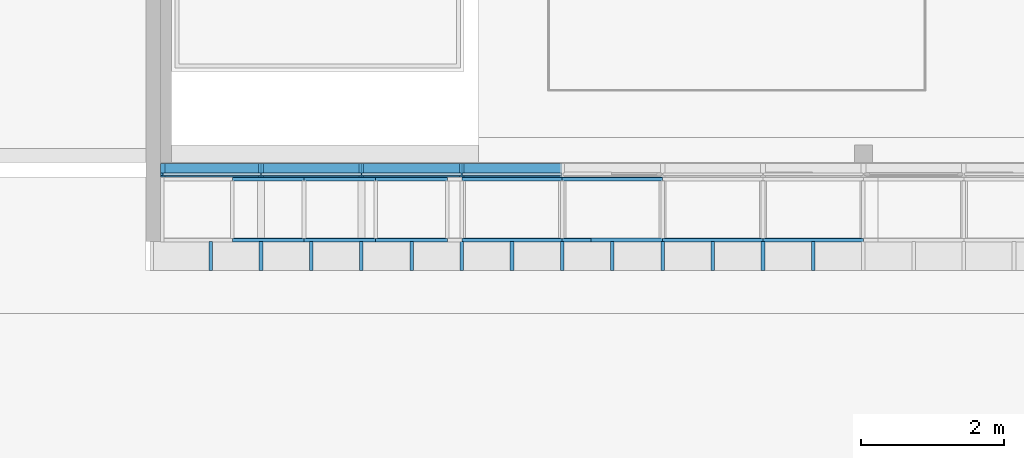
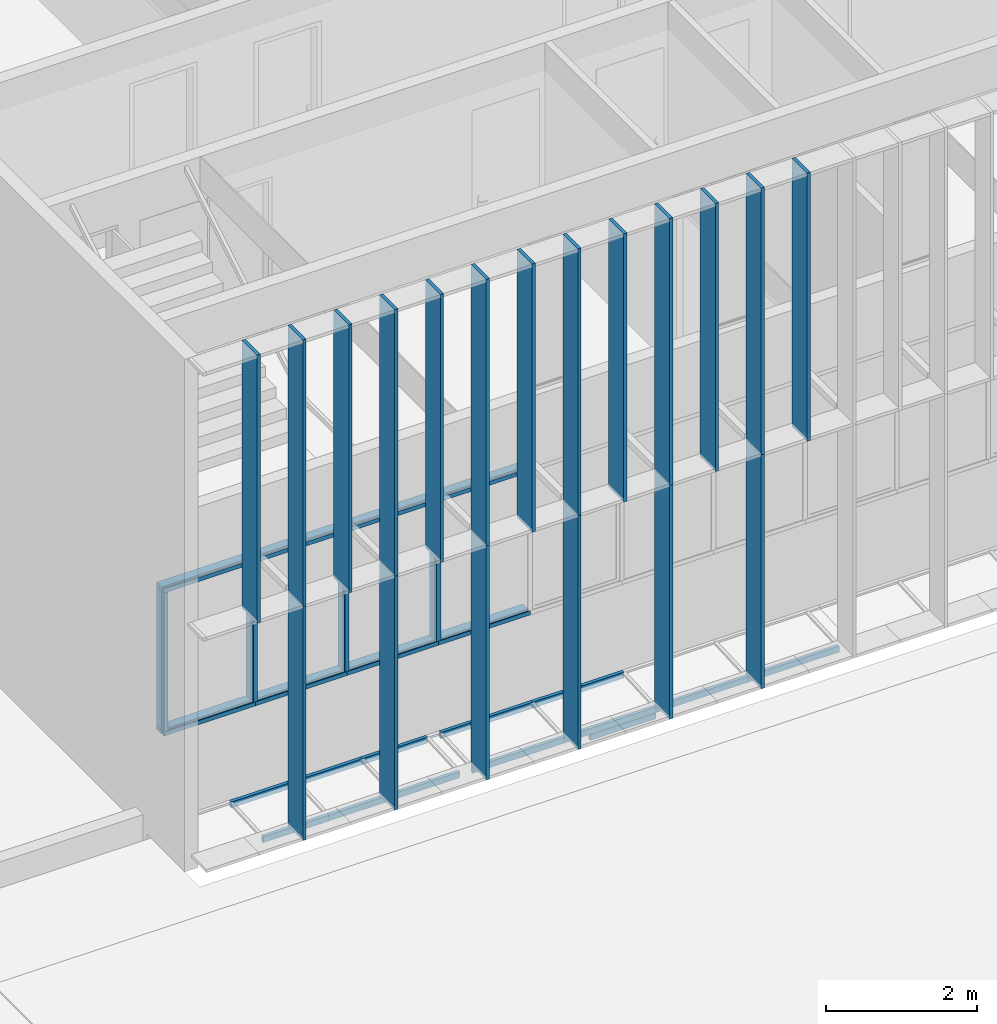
# One storey, part 4 of 106: 44 members, 3 elements without a shape of their own.
"""IFC2X3 building model written with IfcOpenShell, lengths in centimetres."""

import ifcopenshell
import ifcopenshell.guid

model = None  # the IFC model being written
_history = None  # IfcOwnerHistory: only IFC2X3 demands one
_inside = {}  # id of a spatial element -> (the spatial element, [elements in it])
_under = {}  # id of a project, library or spatial element -> (it, [spatial elements below it])
_declared = {}  # id of a project -> (the project, [libraries it declares])
_typed = {}  # id of a type object -> (the type object, [elements of that type])
_made_of = {}  # id of a material, layer set ... -> (it, [elements and type objects made of it])


def new_model(schema):
    """Start an empty IFC model of exactly this schema.

    Asked for "IFC4X3", IfcOpenShell would pick the latest addendum, in which some entities
    have other attributes; the version numbers below select the first issue.
    IFC2X3 requires an IfcOwnerHistory on every rooted entity: one is made here for all.
    """
    global model, _history
    if schema == "IFC4X3":
        model = ifcopenshell.file(schema_version=(4, 3, 0, 0))
    else:
        model = ifcopenshell.file(schema=schema)
    _inside.clear()
    _under.clear()
    _declared.clear()
    _typed.clear()
    _made_of.clear()
    _history = None
    if model.schema == "IFC2X3":
        org = make("IfcOrganization", Name="unknown")
        user = make(
            "IfcPersonAndOrganization",
            ThePerson=make("IfcPerson", FamilyName="unknown"),
            TheOrganization=org,
        )
        app = make(
            "IfcApplication",
            ApplicationDeveloper=org,
            Version="unknown",
            ApplicationFullName="unknown",
            ApplicationIdentifier="unknown",
        )
        _history = make(
            "IfcOwnerHistory",
            OwningUser=user,
            OwningApplication=app,
            ChangeAction="ADDED",
            CreationDate=0,
        )
    return model


def make(cls, **values):
    """One entity of the class cls with the attributes given. An attribute that is None is left unset."""
    return model.create_entity(
        cls, **{name: value for name, value in values.items() if value is not None}
    )


def entity(cls, *values):
    """Any entity or typed value of the class cls, its attributes in the order of the schema. None: left unset."""
    e = model.create_entity(cls)
    for i, value in enumerate(values):
        if value is not None:
            e[i] = value
    return e


def rooted(cls, **values):
    """An entity with a GlobalId (a new one), such as an element, a storey or a relation."""
    return make(cls, GlobalId=ifcopenshell.guid.new(), OwnerHistory=_history, **values)


def si_unit(unit_type, name, prefix=None):
    """IfcSIUnit, for example si_unit("LENGTHUNIT", "METRE", prefix="MILLI")."""
    return make("IfcSIUnit", UnitType=unit_type, Prefix=prefix, Name=name)


def converted_unit(unit_type, name, factor, base, dimensions=None, offset=None):
    """IfcConversionBasedUnit, such as the inch: factor (a typed value) times the base unit."""
    return make(
        "IfcConversionBasedUnit"
        if offset is None
        else "IfcConversionBasedUnitWithOffset",
        ConversionOffset=offset,
        Dimensions=None
        if dimensions is None
        else entity("IfcDimensionalExponents", *dimensions),
        UnitType=unit_type,
        Name=name,
        ConversionFactor=make(
            "IfcMeasureWithUnit", ValueComponent=factor, UnitComponent=base
        ),
    )


def derived_unit(unit_type, elements):
    """IfcDerivedUnit: a product of units, each with its exponent."""
    return make(
        "IfcDerivedUnit",
        Elements=[
            make("IfcDerivedUnitElement", Unit=unit, Exponent=power)
            for unit, power in elements
        ],
        UnitType=unit_type,
    )


def assignment(units):
    """IfcUnitAssignment: the units of a project."""
    return None if units is None else make("IfcUnitAssignment", Units=units)


def point(xyz):
    """IfcCartesianPoint."""
    return None if xyz is None else make("IfcCartesianPoint", Coordinates=xyz)


def direction(xyz):
    """IfcDirection."""
    return None if xyz is None else make("IfcDirection", DirectionRatios=xyz)


def frame(location, z_axis=None, x_axis=None):
    """IfcAxis2Placement3D, a coordinate frame: its origin and axes. An axis left out is left unset."""
    return make(
        "IfcAxis2Placement3D",
        Location=point(location),
        Axis=direction(z_axis),
        RefDirection=direction(x_axis),
    )


def frame_2d(location, x_axis=None):
    """IfcAxis2Placement2D, a coordinate frame in the plane: its origin and x axis."""
    return make(
        "IfcAxis2Placement2D", Location=point(location), RefDirection=direction(x_axis)
    )


def origin():
    """The frame at (0, 0, 0) with its axes left unset."""
    return frame((0.0, 0.0, 0.0))


def origin_2d_with_axis():
    """The frame at (0, 0) in the plane with the x axis (1, 0) written out."""
    return frame_2d((0.0, 0.0), x_axis=(1.0, 0.0))


def place(relative_to, where):
    """IfcLocalPlacement: puts the frame where relative to a parent placement (None: the world)."""
    return make(
        "IfcLocalPlacement", PlacementRelTo=relative_to, RelativePlacement=where
    )


def context(
    kind, dimensions, precision=None, world=None, true_north=None, identifier=None
):
    """IfcGeometricRepresentationContext, for example the 3D "Model" context."""
    return make(
        "IfcGeometricRepresentationContext",
        ContextIdentifier=identifier,
        ContextType=kind,
        CoordinateSpaceDimension=dimensions,
        Precision=precision,
        WorldCoordinateSystem=world,
        TrueNorth=true_north,
    )


def subcontext(parent, identifier, kind, view, scale=None):
    """IfcGeometricRepresentationSubContext, for example "Body" below "Model"."""
    return make(
        "IfcGeometricRepresentationSubContext",
        ContextIdentifier=identifier,
        ContextType=kind,
        ParentContext=parent,
        TargetScale=scale,
        TargetView=view,
    )


def project(units=None, contexts=None):
    """IfcProject with its units and contexts."""
    return rooted(
        "IfcProject",
        Name="project",
        RepresentationContexts=contexts,
        UnitsInContext=assignment(units),
    )


def spatial(cls, under=None, at=None, **own):
    """A site, building, storey or space (cls), placed at a placement, below another one or the project."""
    s = rooted(cls, ObjectPlacement=at, **own)
    if under is not None:
        _under.setdefault(under.id(), (under, []))[1].append(s)
    return s


def polyline(points):
    """IfcPolyline through the points."""
    return make("IfcPolyline", Points=[point(p) for p in points])


def profile(cls, at=None, kind="AREA", **sizes):
    """A parametric profile (cls). Its sizes go by their IFC names, for example OverallWidth=200.0."""
    return make(cls, ProfileType=kind, Position=at, **sizes)


def rectangle(**sizes):
    """IfcRectangleProfileDef."""
    return profile("IfcRectangleProfileDef", **sizes)


def outline(outer, holes=None, kind="AREA"):
    """IfcArbitraryClosedProfileDef: a profile drawn as a closed curve; with holes, ...WithVoids."""
    if holes is None:
        return make("IfcArbitraryClosedProfileDef", ProfileType=kind, OuterCurve=outer)
    return make(
        "IfcArbitraryProfileDefWithVoids",
        ProfileType=kind,
        OuterCurve=outer,
        InnerCurves=holes,
    )


def extrude(swept, where, along, depth):
    """IfcExtrudedAreaSolid: the profile swept, set in the frame where, extruded along a direction by depth."""
    return make(
        "IfcExtrudedAreaSolid",
        SweptArea=swept,
        Position=where,
        ExtrudedDirection=direction(along),
        Depth=depth,
    )


def shape(context_of_items, identifier, shape_type, items):
    """IfcShapeRepresentation: the items that make up one representation, for example the "Body"."""
    return make(
        "IfcShapeRepresentation",
        ContextOfItems=context_of_items,
        RepresentationIdentifier=identifier,
        RepresentationType=shape_type,
        Items=items,
    )


def source(mapping_origin, context_of_items, identifier, shape_type, items):
    """IfcRepresentationMap: a shape defined once, which mapped items show again and again."""
    return make(
        "IfcRepresentationMap",
        MappingOrigin=mapping_origin,
        MappedRepresentation=shape(context_of_items, identifier, shape_type, items),
    )


def transform(
    local_origin,
    x_axis=None,
    y_axis=None,
    z_axis=None,
    scale=None,
    scale2=None,
    scale3=None,
    uniform=True,
):
    """IfcCartesianTransformationOperator3D, or its non-uniform kind. x_axis, y_axis, z_axis: its Axis1, 2, 3."""
    if uniform:
        return make(
            "IfcCartesianTransformationOperator3D",
            Axis1=direction(x_axis),
            Axis2=direction(y_axis),
            LocalOrigin=point(local_origin),
            Scale=scale,
            Axis3=direction(z_axis),
        )
    return make(
        "IfcCartesianTransformationOperator3DnonUniform",
        Axis1=direction(x_axis),
        Axis2=direction(y_axis),
        LocalOrigin=point(local_origin),
        Scale=scale,
        Axis3=direction(z_axis),
        Scale2=scale2,
        Scale3=scale3,
    )


def mapped(mapping_source, mapping_target):
    """IfcMappedItem: shows the shape of a source again, moved by a transform."""
    return make(
        "IfcMappedItem", MappingSource=mapping_source, MappingTarget=mapping_target
    )


def material(Name=None, Category=None):
    """IfcMaterial."""
    return make("IfcMaterial", Name=Name, Category=Category)


def made_of(thing, what):
    """Note that an element or type object is made of a material, layer set ...; save() writes the relation."""
    if what is not None:
        _made_of.setdefault(what.id(), (what, []))[1].append(thing)
    return thing


def type_object(cls, material=None, **own):
    """A type object (cls), such as IfcWallType, which elements share."""
    return made_of(rooted(cls, **own), material)


def type_shapes(of_type, sources):
    """Give a type object the sources (RepresentationMaps) that its elements show as mapped items."""
    of_type.RepresentationMaps = sources


def element(
    cls,
    number,
    at=None,
    inside=None,
    cuts=None,
    type_object=None,
    material=None,
    context=None,
    identifier="Body",
    shape_type=None,
    held_by="IfcProductDefinitionShape",
    body=None,
    shapes=None,
    **own,
):
    """One element of the class cls, such as IfcWall. Its Tag is "e" and its number.

    at: its placement. inside: the storey or other place that contains it. cuts: it is an
    opening in that element (IfcRelVoidsElement). A single representation is given by context,
    identifier, shape_type and body (its items); several are given by shapes. held_by: the class
    of the entity that holds the representations. save() writes the other relations.
    """
    e = rooted(cls, Tag="e%d" % number, ObjectPlacement=at, **own)
    if body is not None:
        shapes = [shape(context, identifier, shape_type, body)]
    if shapes is not None:
        e.Representation = make(held_by, Representations=shapes)
    if inside is not None:
        _inside.setdefault(inside.id(), (inside, []))[1].append(e)
    if cuts is not None:
        rooted(
            "IfcRelVoidsElement", RelatingBuildingElement=cuts, RelatedOpeningElement=e
        )
    if type_object is not None:
        _typed.setdefault(type_object.id(), (type_object, []))[1].append(e)
    return made_of(e, material)


def aggregate(whole, parts):
    """IfcRelAggregates: a whole, such as a stair, and the parts it consists of."""
    return rooted("IfcRelAggregates", RelatingObject=whole, RelatedObjects=parts)


def save(model, path):
    """Write the relations noted so far, then the file.

    IfcRelAggregates (storeys below a building ...), IfcRelContainedInSpatialStructure (elements
    in a storey), IfcRelDefinesByType, IfcRelAssociatesMaterial and IfcRelDeclares: one each for
    every whole, place, type object, material and project.
    """
    for whole, parts in _under.values():
        aggregate(whole, parts)
    for where, things in _inside.values():
        rooted(
            "IfcRelContainedInSpatialStructure",
            RelatedElements=things,
            RelatingStructure=where,
        )
    for kind, things in _typed.values():
        rooted("IfcRelDefinesByType", RelatedObjects=things, RelatingType=kind)
    for what, things in _made_of.values():
        rooted("IfcRelAssociatesMaterial", RelatedObjects=things, RelatingMaterial=what)
    for by, libraries in _declared.values():
        rooted("IfcRelDeclares", RelatingContext=by, RelatedDefinitions=libraries)
    model.write(path)


model = new_model("IFC2X3")

# Units and contexts
model_context = context("Model", 3, precision=0.001, world=origin(), true_north=direction((6.12303176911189e-17, 1.0)))
body_context = subcontext(model_context, "Body", "Model", "MODEL_VIEW")
ifc_project = project(units=[si_unit("LENGTHUNIT", "METRE", prefix="CENTI"), si_unit("AREAUNIT", "SQUARE_METRE"), si_unit("VOLUMEUNIT", "CUBIC_METRE"), converted_unit("PLANEANGLEUNIT", "DEGREE", entity("IfcRatioMeasure", 0.0174532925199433), si_unit("PLANEANGLEUNIT", "RADIAN"), dimensions=[0, 0, 0, 0, 0, 0, 0]), si_unit("MASSUNIT", "GRAM", prefix="KILO"), derived_unit("MASSDENSITYUNIT", [(si_unit("MASSUNIT", "GRAM", prefix="KILO"), 1), (si_unit("LENGTHUNIT", "METRE"), -3)]), si_unit("TIMEUNIT", "SECOND"), si_unit("FREQUENCYUNIT", "HERTZ"), si_unit("THERMODYNAMICTEMPERATUREUNIT", "DEGREE_CELSIUS"), derived_unit("THERMALTRANSMITTANCEUNIT", [(si_unit("MASSUNIT", "GRAM", prefix="KILO"), 1), (si_unit("THERMODYNAMICTEMPERATUREUNIT", "KELVIN"), -1), (si_unit("TIMEUNIT", "SECOND"), -3)]), derived_unit("VOLUMETRICFLOWRATEUNIT", [(si_unit("LENGTHUNIT", "METRE"), 3), (si_unit("TIMEUNIT", "SECOND"), -1)]), si_unit("ELECTRICCURRENTUNIT", "AMPERE"), si_unit("ELECTRICVOLTAGEUNIT", "VOLT"), si_unit("POWERUNIT", "WATT"), si_unit("FORCEUNIT", "NEWTON", prefix="KILO"), si_unit("ILLUMINANCEUNIT", "LUX"), si_unit("LUMINOUSFLUXUNIT", "LUMEN"), si_unit("LUMINOUSINTENSITYUNIT", "CANDELA"), derived_unit("USERDEFINED", [(si_unit("MASSUNIT", "GRAM", prefix="KILO"), -1), (si_unit("LENGTHUNIT", "METRE"), -2), (si_unit("TIMEUNIT", "SECOND"), 3), (si_unit("LUMINOUSFLUXUNIT", "LUMEN"), 1)]), derived_unit("LINEARVELOCITYUNIT", [(si_unit("LENGTHUNIT", "METRE"), 1), (si_unit("TIMEUNIT", "SECOND"), -1)]), si_unit("PRESSUREUNIT", "PASCAL"), derived_unit("USERDEFINED", [(si_unit("LENGTHUNIT", "METRE"), -2), (si_unit("MASSUNIT", "GRAM", prefix="KILO"), 1), (si_unit("TIMEUNIT", "SECOND"), -2)])], contexts=[model_context])

# Site, building, storey
site_placement = place(None, frame((-2781.94577612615, 7442.24238424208, 0.0)))
site = spatial("IfcSite", under=ifc_project, at=site_placement, Name="Default", CompositionType="ELEMENT")
building_placement = place(site_placement, origin())
building = spatial("IfcBuilding", under=site, at=building_placement, CompositionType="ELEMENT")
storey_placement = place(building_placement, frame((0.0, 0.0, 422.0)))
storey = spatial("IfcBuildingStorey", under=building, at=storey_placement, Name="Toiture - Cuisine", CompositionType="ELEMENT", Elevation=421.999999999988)

# Roof, members
curtain_wall_type_1 = type_object("IfcCurtainWallType", Name="Vitres inclinées:Toit en verre 1 m x 2 m", PredefinedType="NOTDEFINED")
roof_placement = place(building_placement, origin())
roof = element("IfcRoof", 1, at=roof_placement, inside=storey, type_object=curtain_wall_type_1, Name="Vitres inclinées:Toit en verre 1 m x 2 m", ObjectType="Vitres inclinées:Toit en verre 1 m x 2 m", ShapeType="NOTDEFINED")
ifc_material_1 = material(Name="Plastique, blanc opaque")
member_type_1 = type_object("IfcMemberType", Name="100 x 50mm", PredefinedType="MEMBER")
shared_shape_1 = source(origin(), body_context, "Body", "SweptSolid", [
    extrude(rectangle(XDim=10.0, YDim=5.0, at=origin_2d_with_axis()), frame((-2.5, 0.0, -100.0), z_axis=(0.0, 0.0, 1.0), x_axis=(0.0, -1.0, 0.0)), (0.0, 0.0, 1.0), 99.9999999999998),
])
type_shapes(member_type_1, [shared_shape_1])
member_1_placement = place(building_placement, frame((-8309.49987763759, -1950.34071342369, 362.709847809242), z_axis=(-1.0, 0.0, 0.0), x_axis=(0.0, 0.998629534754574, 0.0523359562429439)))
member_1 = element("IfcMember", 2, at=member_1_placement, type_object=member_type_1, material=ifc_material_1, Name="Meneau rectangulaire:100 x 50mm", ObjectType="Meneau rectangulaire:100 x 50mm", context=body_context, shape_type="MappedRepresentation", body=[
    mapped(shared_shape_1, transform((0.0, 0.0, 0.0), scale=1.0)),
])
member_2_placement = place(building_placement, frame((-8209.49987763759, -1950.34071342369, 362.709847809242), z_axis=(-1.0, 0.0, 0.0), x_axis=(0.0, 0.998629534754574, 0.0523359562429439)))
member_2 = element("IfcMember", 3, at=member_2_placement, type_object=member_type_1, material=ifc_material_1, Name="Meneau rectangulaire:100 x 50mm", ObjectType="Meneau rectangulaire:100 x 50mm", context=body_context, shape_type="MappedRepresentation", body=[
    mapped(shared_shape_1, transform((0.0, 0.0, 0.0), scale=1.0)),
])
member_3_placement = place(building_placement, frame((-8109.49987763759, -1950.34071342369, 362.709847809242), z_axis=(-1.0, 0.0, 0.0), x_axis=(0.0, 0.998629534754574, 0.0523359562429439)))
member_3 = element("IfcMember", 4, at=member_3_placement, type_object=member_type_1, material=ifc_material_1, Name="Meneau rectangulaire:100 x 50mm", ObjectType="Meneau rectangulaire:100 x 50mm", context=body_context, shape_type="MappedRepresentation", body=[
    mapped(shared_shape_1, transform((0.0, 0.0, 0.0), scale=1.0)),
])
member_type_2 = type_object("IfcMemberType", Name="100 x 50mm", PredefinedType="MEMBER")
shared_shape_2 = source(origin(), body_context, "Body", "SweptSolid", [
    extrude(rectangle(XDim=10.0, YDim=5.0, at=origin_2d_with_axis()), frame((-2.5, 0.0, -140.0), z_axis=(0.0, 0.0, 1.0), x_axis=(0.0, -1.0, 0.0)), (0.0, 0.0, 1.0), 140.0),
])
type_shapes(member_type_2, [shared_shape_2])
member_4_placement = place(building_placement, frame((-7989.49987763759, -1950.34071342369, 362.709847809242), z_axis=(-1.0, 0.0, 0.0), x_axis=(0.0, 0.998629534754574, 0.0523359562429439)))
member_4 = element("IfcMember", 5, at=member_4_placement, type_object=member_type_2, material=ifc_material_1, Name="Meneau rectangulaire:100 x 50mm", ObjectType="Meneau rectangulaire:100 x 50mm", context=body_context, shape_type="MappedRepresentation", body=[
    mapped(shared_shape_2, transform((0.0, 0.0, 0.0), scale=1.0)),
])
member_5_placement = place(building_placement, frame((-7849.49987763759, -1950.34071342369, 362.709847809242), z_axis=(-1.0, 0.0, 0.0), x_axis=(0.0, 0.998629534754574, 0.0523359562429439)))
member_5 = element("IfcMember", 6, at=member_5_placement, type_object=member_type_2, material=ifc_material_1, Name="Meneau rectangulaire:100 x 50mm", ObjectType="Meneau rectangulaire:100 x 50mm", context=body_context, shape_type="MappedRepresentation", body=[
    mapped(shared_shape_2, transform((0.0, 0.0, 0.0), scale=1.0)),
])
member_type_3 = type_object("IfcMemberType", Name="100 x 50mm", PredefinedType="MEMBER")
shared_shape_3 = source(origin(), body_context, "Body", "SweptSolid", [
    extrude(rectangle(XDim=10.0, YDim=5.0, at=origin_2d_with_axis()), frame((-2.5, 0.0, -140.0), z_axis=(0.0, 0.0, 1.0), x_axis=(0.0, -1.0, 0.0)), (0.0, 0.0, 1.0), 140.0),
])
type_shapes(member_type_3, [shared_shape_3])
member_6_placement = place(building_placement, frame((-7709.49987763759, -2040.34071342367, 357.99314767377), z_axis=(1.0, 0.0, 0.0), x_axis=(0.0, -0.998629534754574, -0.0523359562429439)))
member_6 = element("IfcMember", 7, at=member_6_placement, type_object=member_type_3, material=ifc_material_1, Name="Meneau rectangulaire:100 x 50mm", ObjectType="Meneau rectangulaire:100 x 50mm", context=body_context, shape_type="MappedRepresentation", body=[
    mapped(shared_shape_3, transform((0.0, 0.0, 0.0), scale=1.0)),
])
member_7_placement = place(building_placement, frame((-7849.49987763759, -2040.34071342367, 357.99314767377), z_axis=(1.0, 0.0, 0.0), x_axis=(0.0, -0.998629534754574, -0.0523359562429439)))
member_7 = element("IfcMember", 8, at=member_7_placement, type_object=member_type_3, material=ifc_material_1, Name="Meneau rectangulaire:100 x 50mm", ObjectType="Meneau rectangulaire:100 x 50mm", context=body_context, shape_type="MappedRepresentation", body=[
    mapped(shared_shape_3, transform((0.0, 0.0, 0.0), scale=1.0)),
])
member_8_placement = place(building_placement, frame((-7569.49987763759, -2040.34071342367, 357.99314767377), z_axis=(1.0, 0.0, 0.0), x_axis=(0.0, -0.998629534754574, -0.0523359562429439)))
member_8 = element("IfcMember", 9, at=member_8_placement, type_object=member_type_3, material=ifc_material_1, Name="Meneau rectangulaire:100 x 50mm", ObjectType="Meneau rectangulaire:100 x 50mm", context=body_context, shape_type="MappedRepresentation", body=[
    mapped(shared_shape_3, transform((0.0, 0.0, 0.0), scale=1.0)),
])
member_9_placement = place(building_placement, frame((-7429.49987763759, -2040.34071342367, 357.99314767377), z_axis=(1.0, 0.0, 0.0), x_axis=(0.0, -0.998629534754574, -0.0523359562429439)))
member_9 = element("IfcMember", 10, at=member_9_placement, type_object=member_type_3, material=ifc_material_1, Name="Meneau rectangulaire:100 x 50mm", ObjectType="Meneau rectangulaire:100 x 50mm", context=body_context, shape_type="MappedRepresentation", body=[
    mapped(shared_shape_3, transform((0.0, 0.0, 0.0), scale=1.0)),
])
member_type_4 = type_object("IfcMemberType", Name="100 x 50mm", PredefinedType="MEMBER")
shared_shape_4 = source(origin(), body_context, "Body", "SweptSolid", [
    extrude(rectangle(XDim=10.0, YDim=5.0, at=origin_2d_with_axis()), frame((-2.5, 0.0, -100.0), z_axis=(0.0, 0.0, 1.0), x_axis=(0.0, -1.0, 0.0)), (0.0, 0.0, 1.0), 99.9999999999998),
])
type_shapes(member_type_4, [shared_shape_4])
member_10_placement = place(building_placement, frame((-8209.49987763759, -2040.34071342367, 357.99314767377), z_axis=(1.0, 0.0, 0.0), x_axis=(0.0, -0.998629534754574, -0.0523359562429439)))
member_10 = element("IfcMember", 11, at=member_10_placement, type_object=member_type_4, material=ifc_material_1, Name="Meneau rectangulaire:100 x 50mm", ObjectType="Meneau rectangulaire:100 x 50mm", context=body_context, shape_type="MappedRepresentation", body=[
    mapped(shared_shape_4, transform((0.0, 0.0, 0.0), scale=1.0)),
])
member_11_placement = place(building_placement, frame((-8109.49987763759, -2040.34071342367, 357.99314767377), z_axis=(1.0, 0.0, 0.0), x_axis=(0.0, -0.998629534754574, -0.0523359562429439)))
member_11 = element("IfcMember", 12, at=member_11_placement, type_object=member_type_4, material=ifc_material_1, Name="Meneau rectangulaire:100 x 50mm", ObjectType="Meneau rectangulaire:100 x 50mm", context=body_context, shape_type="MappedRepresentation", body=[
    mapped(shared_shape_4, transform((0.0, 0.0, 0.0), scale=1.0)),
])
member_12_placement = place(building_placement, frame((-8009.49987763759, -2040.34071342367, 357.99314767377), z_axis=(1.0, 0.0, 0.0), x_axis=(0.0, -0.998629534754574, -0.0523359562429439)))
member_12 = element("IfcMember", 13, at=member_12_placement, type_object=member_type_4, material=ifc_material_1, Name="Meneau rectangulaire:100 x 50mm", ObjectType="Meneau rectangulaire:100 x 50mm", context=body_context, shape_type="MappedRepresentation", body=[
    mapped(shared_shape_4, transform((0.0, 0.0, 0.0), scale=1.0)),
])
member_13_placement = place(building_placement, frame((-7709.4998776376, -2040.07903364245, 348.0), z_axis=(1.0, 0.0, 0.0), x_axis=(0.0, -0.998629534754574, -0.0523359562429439)))
member_13 = element("IfcMember", 14, at=member_13_placement, type_object=member_type_4, material=ifc_material_1, Name="Meneau rectangulaire:100 x 50mm", ObjectType="Meneau rectangulaire:100 x 50mm", context=body_context, shape_type="MappedRepresentation", body=[
    mapped(shared_shape_4, transform((0.0, 0.0, 0.0), scale=1.0)),
])
aggregate(roof, [member_1, member_2, member_3, member_4, member_5, member_6, member_10, member_11, member_12, member_7, member_13, member_8, member_9])

# Curtain wall, members
curtain_wall_type_2 = type_object("IfcCurtainWallType", Name="Mur-rideau:07 - mur rideau trame 140 cm", PredefinedType="NOTDEFINED")
curtain_wall_1_placement = place(building_placement, origin())
curtain_wall_1 = element("IfcCurtainWall", 15, at=curtain_wall_1_placement, inside=storey, type_object=curtain_wall_type_2, Name="Mur-rideau:07 - mur rideau trame 140 cm", ObjectType="Mur-rideau:07 - mur rideau trame 140 cm")
ifc_material_2 = material(Name="Aluminium")
member_type_5 = type_object("IfcMemberType", Name="150 x 25mm Détails", PredefinedType="MEMBER")
shared_shape_5 = source(origin(), body_context, "Body", "SweptSolid", [
    extrude(outline(polyline([(-5.6666666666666, -3.24999999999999), (-3.66666666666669, -3.24999999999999), (-3.66666666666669, -0.868749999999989), (-0.166666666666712, -0.868749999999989), (-0.166666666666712, -3.25000000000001), (13.3333333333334, -3.25000000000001), (13.3333333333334, 3.24999999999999), (-0.16666666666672, 3.24999999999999), (-0.16666666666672, 0.868749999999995), (-3.66666666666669, 0.868749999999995), (-3.66666666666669, 3.25), (-5.6666666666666, 3.25), (-5.6666666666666, -3.24999999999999)])), frame((-3.24999999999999, -1.96666666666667, -140.0), z_axis=(0.0, 0.0, 1.0), x_axis=(0.0, -1.0, 0.0)), (0.0, 0.0, 1.0), 140.000000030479),
])
type_shapes(member_type_5, [shared_shape_5])
member_14_placement = place(building_placement, frame((-8269.49987763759, -1946.27903364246, 743.0), z_axis=(1.0, 0.0, 0.0), x_axis=(0.0, 0.0, 1.0)))
member_14 = element("IfcMember", 16, at=member_14_placement, type_object=member_type_5, material=ifc_material_2, Name="Meneau rectangulaire:150 x 25mm Détails", ObjectType="Meneau rectangulaire:150 x 25mm Détails", context=body_context, shape_type="MappedRepresentation", body=[
    mapped(shared_shape_5, transform((0.0, 0.0, 0.0), scale=1.0)),
])
member_type_6 = type_object("IfcMemberType", Name="150 x 25mm Détails", PredefinedType="MEMBER")
shared_shape_6 = source(origin(), body_context, "Body", "SweptSolid", [
    extrude(outline(polyline([(-5.6666666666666, -3.24999999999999), (-3.66666666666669, -3.24999999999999), (-3.66666666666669, -0.868749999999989), (-0.166666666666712, -0.868749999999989), (-0.166666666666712, -3.25000000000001), (13.3333333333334, -3.25000000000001), (13.3333333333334, 3.24999999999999), (-0.16666666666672, 3.24999999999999), (-0.16666666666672, 0.868749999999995), (-3.66666666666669, 0.868749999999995), (-3.66666666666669, 3.25), (-5.6666666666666, 3.25), (-5.6666666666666, -3.24999999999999)])), frame((-3.24999999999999, -1.96666666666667, -140.0), z_axis=(0.0, 0.0, 1.0), x_axis=(0.0, -1.0, 0.0)), (0.0, 0.0, 1.0), 140.000000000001),
])
type_shapes(member_type_6, [shared_shape_6])
member_15_placement = place(building_placement, frame((-8129.49987763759, -1946.27903364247, 743.0), z_axis=(1.0, 0.0, 0.0), x_axis=(0.0, 0.0, 1.0)))
member_15 = element("IfcMember", 17, at=member_15_placement, type_object=member_type_6, material=ifc_material_2, Name="Meneau rectangulaire:150 x 25mm Détails", ObjectType="Meneau rectangulaire:150 x 25mm Détails", context=body_context, shape_type="MappedRepresentation", body=[
    mapped(shared_shape_6, transform((0.0, 0.0, 0.0), scale=1.0)),
])
member_16_placement = place(building_placement, frame((-7989.49987763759, -1946.27903364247, 743.0), z_axis=(1.0, 0.0, 0.0), x_axis=(0.0, 0.0, 1.0)))
member_16 = element("IfcMember", 18, at=member_16_placement, type_object=member_type_6, material=ifc_material_2, Name="Meneau rectangulaire:150 x 25mm Détails", ObjectType="Meneau rectangulaire:150 x 25mm Détails", context=body_context, shape_type="MappedRepresentation", body=[
    mapped(shared_shape_6, transform((0.0, 0.0, 0.0), scale=1.0)),
])
member_17_placement = place(building_placement, frame((-7849.49987763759, -1946.27903364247, 743.0), z_axis=(1.0, 0.0, 0.0), x_axis=(0.0, 0.0, 1.0)))
member_17 = element("IfcMember", 19, at=member_17_placement, type_object=member_type_6, material=ifc_material_2, Name="Meneau rectangulaire:150 x 25mm Détails", ObjectType="Meneau rectangulaire:150 x 25mm Détails", context=body_context, shape_type="MappedRepresentation", body=[
    mapped(shared_shape_6, transform((0.0, 0.0, 0.0), scale=1.0)),
])
member_type_7 = type_object("IfcMemberType", Name="150 x 25mm Détails", PredefinedType="MEMBER")
shared_shape_7 = source(origin(), body_context, "Body", "SweptSolid", [
    extrude(outline(polyline([(-5.66666666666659, -3.25), (-3.66666666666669, -3.25), (-3.66666666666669, -0.868749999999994), (-0.166666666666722, -0.868749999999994), (-0.166666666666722, -3.25000000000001), (13.3333333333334, -3.24999999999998), (13.3333333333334, 3.25000000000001), (-0.166666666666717, 3.25000000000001), (-0.166666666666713, 0.868749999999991), (-3.66666666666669, 0.868749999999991), (-3.66666666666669, 3.24999999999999), (-5.66666666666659, 3.24999999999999), (-5.66666666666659, -3.25)])), frame((-3.24999999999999, -1.96666666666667, -140.0), z_axis=(0.0, 0.0, 1.0), x_axis=(0.0, -1.0, 0.0)), (0.0, 0.0, 1.0), 140.000000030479),
])
type_shapes(member_type_7, [shared_shape_7])
member_18_placement = place(building_placement, frame((-8409.49987766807, -1946.27903364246, 505.5), z_axis=(-1.0, 0.0, 0.0), x_axis=(0.0, 0.0, -1.0)))
member_18 = element("IfcMember", 20, at=member_18_placement, type_object=member_type_7, material=ifc_material_2, Name="Meneau rectangulaire:150 x 25mm Détails", ObjectType="Meneau rectangulaire:150 x 25mm Détails", context=body_context, shape_type="MappedRepresentation", body=[
    mapped(shared_shape_7, transform((0.0, 0.0, 0.0), scale=1.0)),
])
member_type_8 = type_object("IfcMemberType", Name="150 x 25mm Détails", PredefinedType="MEMBER")
shared_shape_8 = source(origin(), body_context, "Body", "SweptSolid", [
    extrude(outline(polyline([(-5.66666666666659, -3.25), (-3.66666666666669, -3.25), (-3.66666666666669, -0.868749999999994), (-0.166666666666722, -0.868749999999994), (-0.166666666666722, -3.25000000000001), (13.3333333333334, -3.24999999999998), (13.3333333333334, 3.25000000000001), (-0.166666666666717, 3.25000000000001), (-0.166666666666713, 0.868749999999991), (-3.66666666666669, 0.868749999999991), (-3.66666666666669, 3.24999999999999), (-5.66666666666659, 3.24999999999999), (-5.66666666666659, -3.25)])), frame((-3.24999999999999, -1.96666666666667, -140.0), z_axis=(0.0, 0.0, 1.0), x_axis=(0.0, -1.0, 0.0)), (0.0, 0.0, 1.0), 140.000000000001),
])
type_shapes(member_type_8, [shared_shape_8])
member_19_placement = place(building_placement, frame((-8269.49987763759, -1946.27903364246, 505.5), z_axis=(-1.0, 0.0, 0.0), x_axis=(0.0, 0.0, -1.0)))
member_19 = element("IfcMember", 21, at=member_19_placement, type_object=member_type_8, material=ifc_material_2, Name="Meneau rectangulaire:150 x 25mm Détails", ObjectType="Meneau rectangulaire:150 x 25mm Détails", context=body_context, shape_type="MappedRepresentation", body=[
    mapped(shared_shape_8, transform((0.0, 0.0, 0.0), scale=1.0)),
])
member_20_placement = place(building_placement, frame((-8129.49987763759, -1946.27903364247, 505.5), z_axis=(-1.0, 0.0, 0.0), x_axis=(0.0, 0.0, -1.0)))
member_20 = element("IfcMember", 22, at=member_20_placement, type_object=member_type_8, material=ifc_material_2, Name="Meneau rectangulaire:150 x 25mm Détails", ObjectType="Meneau rectangulaire:150 x 25mm Détails", context=body_context, shape_type="MappedRepresentation", body=[
    mapped(shared_shape_8, transform((0.0, 0.0, 0.0), scale=1.0)),
])
member_21_placement = place(building_placement, frame((-7989.49987763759, -1946.27903364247, 505.5), z_axis=(-1.0, 0.0, 0.0), x_axis=(0.0, 0.0, -1.0)))
member_21 = element("IfcMember", 23, at=member_21_placement, type_object=member_type_8, material=ifc_material_2, Name="Meneau rectangulaire:150 x 25mm Détails", ObjectType="Meneau rectangulaire:150 x 25mm Détails", context=body_context, shape_type="MappedRepresentation", body=[
    mapped(shared_shape_8, transform((0.0, 0.0, 0.0), scale=1.0)),
])
member_type_9 = type_object("IfcMemberType", Name="150 x 25mm Détails", PredefinedType="MEMBER")
shared_shape_9 = source(origin(), body_context, "Body", "SweptSolid", [
    extrude(outline(polyline([(-5.6666666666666, -3.25), (-3.66666666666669, -3.25), (-3.66666666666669, -0.868749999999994), (-0.166666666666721, -0.868749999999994), (-0.166666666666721, -3.25000000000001), (13.3333333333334, -3.24999999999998), (13.3333333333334, 3.25000000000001), (-0.166666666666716, 3.25000000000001), (-0.166666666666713, 0.868749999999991), (-3.66666666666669, 0.868749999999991), (-3.66666666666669, 3.24999999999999), (-5.6666666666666, 3.24999999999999), (-5.6666666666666, -3.25)])), frame((-3.24999999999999, -1.96666666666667, -224.5), z_axis=(0.0, 0.0, 1.0), x_axis=(0.0, -1.0, 0.0)), (0.0, 0.0, 1.0), 224.5),
])
type_shapes(member_type_9, [shared_shape_9])
member_22_placement = place(building_placement, frame((-8409.49987766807, -1946.27903364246, 736.5), z_axis=(0.0, 0.0, 1.0), x_axis=(-1.0, 0.0, 0.0)))
member_22 = element("IfcMember", 24, at=member_22_placement, type_object=member_type_9, material=ifc_material_2, Name="Meneau rectangulaire:150 x 25mm Détails", ObjectType="Meneau rectangulaire:150 x 25mm Détails", context=body_context, shape_type="MappedRepresentation", body=[
    mapped(shared_shape_9, transform((0.0, 0.0, 0.0), scale=1.0)),
])
member_type_10 = type_object("IfcMemberType", Name="150 x 25mm Détails", PredefinedType="MEMBER")
shared_shape_10 = source(origin(), body_context, "Body", "SweptSolid", [
    extrude(outline(polyline([(-5.6666666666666, -3.24999999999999), (-3.66666666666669, -3.24999999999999), (-3.66666666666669, -0.86874999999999), (-0.166666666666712, -0.86874999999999), (-0.166666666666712, -3.25000000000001), (13.3333333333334, -3.25000000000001), (13.3333333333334, 3.24999999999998), (-0.16666666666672, 3.24999999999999), (-0.16666666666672, 0.868749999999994), (-3.66666666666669, 0.868749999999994), (-3.66666666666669, 3.25), (-5.6666666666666, 3.25), (-5.6666666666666, -3.24999999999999)])), frame((0.0, -1.96666666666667, -224.5), z_axis=(0.0, 0.0, 1.0), x_axis=(0.0, -1.0, 0.0)), (0.0, 0.0, 1.0), 224.5),
])
type_shapes(member_type_10, [shared_shape_10])
member_23_placement = place(building_placement, frame((-8269.49987763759, -1946.27903364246, 512.0), z_axis=(0.0, 0.0, -1.0), x_axis=(1.0, 0.0, 0.0)))
member_23 = element("IfcMember", 25, at=member_23_placement, type_object=member_type_10, material=ifc_material_2, Name="Meneau rectangulaire:150 x 25mm Détails", ObjectType="Meneau rectangulaire:150 x 25mm Détails", context=body_context, shape_type="MappedRepresentation", body=[
    mapped(shared_shape_10, transform((0.0, 0.0, 0.0), scale=1.0)),
])
member_24_placement = place(building_placement, frame((-8129.49987763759, -1946.27903364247, 512.0), z_axis=(0.0, 0.0, -1.0), x_axis=(1.0, 0.0, 0.0)))
member_24 = element("IfcMember", 26, at=member_24_placement, type_object=member_type_10, material=ifc_material_2, Name="Meneau rectangulaire:150 x 25mm Détails", ObjectType="Meneau rectangulaire:150 x 25mm Détails", context=body_context, shape_type="MappedRepresentation", body=[
    mapped(shared_shape_10, transform((0.0, 0.0, 0.0), scale=1.0)),
])
member_25_placement = place(building_placement, frame((-7989.49987763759, -1946.27903364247, 512.0), z_axis=(0.0, 0.0, -1.0), x_axis=(1.0, 0.0, 0.0)))
member_25 = element("IfcMember", 27, at=member_25_placement, type_object=member_type_10, material=ifc_material_2, Name="Meneau rectangulaire:150 x 25mm Détails", ObjectType="Meneau rectangulaire:150 x 25mm Détails", context=body_context, shape_type="MappedRepresentation", body=[
    mapped(shared_shape_10, transform((0.0, 0.0, 0.0), scale=1.0)),
])
aggregate(curtain_wall_1, [member_14, member_15, member_16, member_17, member_18, member_19, member_20, member_21, member_22, member_23, member_24, member_25])

curtain_wall_type_3 = type_object("IfcCurtainWallType", Name="Mur-rideau:Epines - 400x30mm", PredefinedType="NOTDEFINED")
curtain_wall_2_placement = place(building_placement, origin())
curtain_wall_2 = element("IfcCurtainWall", 28, at=curtain_wall_2_placement, inside=storey, type_object=curtain_wall_type_3, Name="Mur-rideau:Epines - 400x30mm", ObjectType="Mur-rideau:Epines - 400x30mm")
member_type_11 = type_object("IfcMemberType", Name="Epine sud (400x50 mm)", PredefinedType="MEMBER")
shared_shape_11 = source(origin(), body_context, "Body", "SweptSolid", [
    extrude(rectangle(XDim=40.0, YDim=5.0, at=origin_2d_with_axis()), frame((0.0, 0.0, -377.950708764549), z_axis=(0.0, 0.0, 1.0), x_axis=(0.0, -1.0, 0.0)), (0.0, 0.0, 1.0), 377.950708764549),
])
type_shapes(member_type_11, [shared_shape_11])
member_26_placement = place(building_placement, frame((-8269.49987763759, -2060.07903364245, 367.449291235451), z_axis=(0.0, 0.0, -1.0), x_axis=(1.0, 0.0, 0.0)))
member_26 = element("IfcMember", 29, at=member_26_placement, type_object=member_type_11, material=ifc_material_2, Name="Meneau rectangulaire:Epine sud (400x50 mm)", ObjectType="Meneau rectangulaire:Epine sud (400x50 mm)", context=body_context, shape_type="MappedRepresentation", body=[
    mapped(shared_shape_11, transform((0.0, 0.0, 0.0), scale=1.0)),
])
member_27_placement = place(building_placement, frame((-8129.4998776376, -2060.07903364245, 367.449291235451), z_axis=(0.0, 0.0, -1.0), x_axis=(1.0, 0.0, 0.0)))
member_27 = element("IfcMember", 30, at=member_27_placement, type_object=member_type_11, material=ifc_material_2, Name="Meneau rectangulaire:Epine sud (400x50 mm)", ObjectType="Meneau rectangulaire:Epine sud (400x50 mm)", context=body_context, shape_type="MappedRepresentation", body=[
    mapped(shared_shape_11, transform((0.0, 0.0, 0.0), scale=1.0)),
])
member_28_placement = place(building_placement, frame((-7989.4998776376, -2060.07903364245, 367.449291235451), z_axis=(0.0, 0.0, -1.0), x_axis=(1.0, 0.0, 0.0)))
member_28 = element("IfcMember", 31, at=member_28_placement, type_object=member_type_11, material=ifc_material_2, Name="Meneau rectangulaire:Epine sud (400x50 mm)", ObjectType="Meneau rectangulaire:Epine sud (400x50 mm)", context=body_context, shape_type="MappedRepresentation", body=[
    mapped(shared_shape_11, transform((0.0, 0.0, 0.0), scale=1.0)),
])
member_29_placement = place(building_placement, frame((-7849.49987763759, -2060.07903364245, 367.449291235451), z_axis=(0.0, 0.0, -1.0), x_axis=(1.0, 0.0, 0.0)))
member_29 = element("IfcMember", 32, at=member_29_placement, type_object=member_type_11, material=ifc_material_2, Name="Meneau rectangulaire:Epine sud (400x50 mm)", ObjectType="Meneau rectangulaire:Epine sud (400x50 mm)", context=body_context, shape_type="MappedRepresentation", body=[
    mapped(shared_shape_11, transform((0.0, 0.0, 0.0), scale=1.0)),
])
member_30_placement = place(building_placement, frame((-7709.49987763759, -2060.07903364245, 367.449291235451), z_axis=(0.0, 0.0, -1.0), x_axis=(1.0, 0.0, 0.0)))
member_30 = element("IfcMember", 33, at=member_30_placement, type_object=member_type_11, material=ifc_material_2, Name="Meneau rectangulaire:Epine sud (400x50 mm)", ObjectType="Meneau rectangulaire:Epine sud (400x50 mm)", context=body_context, shape_type="MappedRepresentation", body=[
    mapped(shared_shape_11, transform((0.0, 0.0, 0.0), scale=1.0)),
])
member_31_placement = place(building_placement, frame((-7569.4998776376, -2060.07903364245, 367.449291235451), z_axis=(0.0, 0.0, -1.0), x_axis=(1.0, 0.0, 0.0)))
member_31 = element("IfcMember", 34, at=member_31_placement, type_object=member_type_11, material=ifc_material_2, Name="Meneau rectangulaire:Epine sud (400x50 mm)", ObjectType="Meneau rectangulaire:Epine sud (400x50 mm)", context=body_context, shape_type="MappedRepresentation", body=[
    mapped(shared_shape_11, transform((0.0, 0.0, 0.0), scale=1.0)),
])
member_type_12 = type_object("IfcMemberType", Name="Epine sud (400x50 mm)", PredefinedType="MEMBER")
shared_shape_12 = source(origin(), body_context, "Body", "SweptSolid", [
    extrude(rectangle(XDim=40.0, YDim=5.0, at=origin_2d_with_axis()), frame((0.0, 0.0, -430.600000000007), z_axis=(0.0, 0.0, 1.0), x_axis=(0.0, -1.0, 0.0)), (0.0, 0.0, 1.0), 430.600000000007),
])
type_shapes(member_type_12, [shared_shape_12])
member_32_placement = place(building_placement, frame((-8269.49987763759, -2060.07903364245, 745.4), z_axis=(0.0, 0.0, -1.0), x_axis=(1.0, 0.0, 0.0)))
member_32 = element("IfcMember", 35, at=member_32_placement, type_object=member_type_12, material=ifc_material_2, Name="Meneau rectangulaire:Epine sud (400x50 mm)", ObjectType="Meneau rectangulaire:Epine sud (400x50 mm)", context=body_context, shape_type="MappedRepresentation", body=[
    mapped(shared_shape_12, transform((0.0, 0.0, 0.0), scale=1.0)),
])
member_33_placement = place(building_placement, frame((-8129.4998776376, -2060.07903364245, 745.4), z_axis=(0.0, 0.0, -1.0), x_axis=(1.0, 0.0, 0.0)))
member_33 = element("IfcMember", 36, at=member_33_placement, type_object=member_type_12, material=ifc_material_2, Name="Meneau rectangulaire:Epine sud (400x50 mm)", ObjectType="Meneau rectangulaire:Epine sud (400x50 mm)", context=body_context, shape_type="MappedRepresentation", body=[
    mapped(shared_shape_12, transform((0.0, 0.0, 0.0), scale=1.0)),
])
member_34_placement = place(building_placement, frame((-7989.4998776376, -2060.07903364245, 745.4), z_axis=(0.0, 0.0, -1.0), x_axis=(1.0, 0.0, 0.0)))
member_34 = element("IfcMember", 37, at=member_34_placement, type_object=member_type_12, material=ifc_material_2, Name="Meneau rectangulaire:Epine sud (400x50 mm)", ObjectType="Meneau rectangulaire:Epine sud (400x50 mm)", context=body_context, shape_type="MappedRepresentation", body=[
    mapped(shared_shape_12, transform((0.0, 0.0, 0.0), scale=1.0)),
])
member_35_placement = place(building_placement, frame((-7849.49987763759, -2060.07903364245, 745.4), z_axis=(0.0, 0.0, -1.0), x_axis=(1.0, 0.0, 0.0)))
member_35 = element("IfcMember", 38, at=member_35_placement, type_object=member_type_12, material=ifc_material_2, Name="Meneau rectangulaire:Epine sud (400x50 mm)", ObjectType="Meneau rectangulaire:Epine sud (400x50 mm)", context=body_context, shape_type="MappedRepresentation", body=[
    mapped(shared_shape_12, transform((0.0, 0.0, 0.0), scale=1.0)),
])
member_36_placement = place(building_placement, frame((-7709.49987763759, -2060.07903364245, 745.4), z_axis=(0.0, 0.0, -1.0), x_axis=(1.0, 0.0, 0.0)))
member_36 = element("IfcMember", 39, at=member_36_placement, type_object=member_type_12, material=ifc_material_2, Name="Meneau rectangulaire:Epine sud (400x50 mm)", ObjectType="Meneau rectangulaire:Epine sud (400x50 mm)", context=body_context, shape_type="MappedRepresentation", body=[
    mapped(shared_shape_12, transform((0.0, 0.0, 0.0), scale=1.0)),
])
member_37_placement = place(building_placement, frame((-7569.49987763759, -2060.07903364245, 745.4), z_axis=(0.0, 0.0, -1.0), x_axis=(1.0, 0.0, 0.0)))
member_37 = element("IfcMember", 40, at=member_37_placement, type_object=member_type_12, material=ifc_material_2, Name="Meneau rectangulaire:Epine sud (400x50 mm)", ObjectType="Meneau rectangulaire:Epine sud (400x50 mm)", context=body_context, shape_type="MappedRepresentation", body=[
    mapped(shared_shape_12, transform((0.0, 0.0, 0.0), scale=1.0)),
])
member_type_13 = type_object("IfcMemberType", Name="Epine sud (400x50 mm)", PredefinedType="MEMBER")
shared_shape_13 = source(origin(), body_context, "Body", "SweptSolid", [
    extrude(rectangle(XDim=40.0, YDim=5.0, at=origin_2d_with_axis()), frame((0.0, 0.0, -433.100000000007), z_axis=(0.0, 0.0, 1.0), x_axis=(0.0, -1.0, 0.0)), (0.0, 0.0, 1.0), 433.100000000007),
])
type_shapes(member_type_13, [shared_shape_13])
member_38_placement = place(building_placement, frame((-8339.4998776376, -2060.07903364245, 742.9), z_axis=(0.0, 0.0, -1.0), x_axis=(1.0, 0.0, 0.0)))
member_38 = element("IfcMember", 41, at=member_38_placement, type_object=member_type_13, material=ifc_material_2, Name="Meneau rectangulaire:Epine sud (400x50 mm)", ObjectType="Meneau rectangulaire:Epine sud (400x50 mm)", context=body_context, shape_type="MappedRepresentation", body=[
    mapped(shared_shape_13, transform((0.0, 0.0, 0.0), scale=1.0)),
])
member_39_placement = place(building_placement, frame((-8199.49987763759, -2060.07903364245, 742.9), z_axis=(0.0, 0.0, -1.0), x_axis=(1.0, 0.0, 0.0)))
member_39 = element("IfcMember", 42, at=member_39_placement, type_object=member_type_13, material=ifc_material_2, Name="Meneau rectangulaire:Epine sud (400x50 mm)", ObjectType="Meneau rectangulaire:Epine sud (400x50 mm)", context=body_context, shape_type="MappedRepresentation", body=[
    mapped(shared_shape_13, transform((0.0, 0.0, 0.0), scale=1.0)),
])
member_40_placement = place(building_placement, frame((-8059.4998776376, -2060.07903364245, 742.9), z_axis=(0.0, 0.0, -1.0), x_axis=(1.0, 0.0, 0.0)))
member_40 = element("IfcMember", 43, at=member_40_placement, type_object=member_type_13, material=ifc_material_2, Name="Meneau rectangulaire:Epine sud (400x50 mm)", ObjectType="Meneau rectangulaire:Epine sud (400x50 mm)", context=body_context, shape_type="MappedRepresentation", body=[
    mapped(shared_shape_13, transform((0.0, 0.0, 0.0), scale=1.0)),
])
member_41_placement = place(building_placement, frame((-7919.49987763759, -2060.07903364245, 742.9), z_axis=(0.0, 0.0, -1.0), x_axis=(1.0, 0.0, 0.0)))
member_41 = element("IfcMember", 44, at=member_41_placement, type_object=member_type_13, material=ifc_material_2, Name="Meneau rectangulaire:Epine sud (400x50 mm)", ObjectType="Meneau rectangulaire:Epine sud (400x50 mm)", context=body_context, shape_type="MappedRepresentation", body=[
    mapped(shared_shape_13, transform((0.0, 0.0, 0.0), scale=1.0)),
])
member_42_placement = place(building_placement, frame((-7779.4998776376, -2060.07903364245, 742.9), z_axis=(0.0, 0.0, -1.0), x_axis=(1.0, 0.0, 0.0)))
member_42 = element("IfcMember", 45, at=member_42_placement, type_object=member_type_13, material=ifc_material_2, Name="Meneau rectangulaire:Epine sud (400x50 mm)", ObjectType="Meneau rectangulaire:Epine sud (400x50 mm)", context=body_context, shape_type="MappedRepresentation", body=[
    mapped(shared_shape_13, transform((0.0, 0.0, 0.0), scale=1.0)),
])
member_43_placement = place(building_placement, frame((-7639.49987763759, -2060.07903364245, 742.9), z_axis=(0.0, 0.0, -1.0), x_axis=(1.0, 0.0, 0.0)))
member_43 = element("IfcMember", 46, at=member_43_placement, type_object=member_type_13, material=ifc_material_2, Name="Meneau rectangulaire:Epine sud (400x50 mm)", ObjectType="Meneau rectangulaire:Epine sud (400x50 mm)", context=body_context, shape_type="MappedRepresentation", body=[
    mapped(shared_shape_13, transform((0.0, 0.0, 0.0), scale=1.0)),
])
member_44_placement = place(building_placement, frame((-7499.49987763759, -2060.07903364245, 742.9), z_axis=(0.0, 0.0, -1.0), x_axis=(1.0, 0.0, 0.0)))
member_44 = element("IfcMember", 47, at=member_44_placement, type_object=member_type_13, material=ifc_material_2, Name="Meneau rectangulaire:Epine sud (400x50 mm)", ObjectType="Meneau rectangulaire:Epine sud (400x50 mm)", context=body_context, shape_type="MappedRepresentation", body=[
    mapped(shared_shape_13, transform((0.0, 0.0, 0.0), scale=1.0)),
])
aggregate(curtain_wall_2, [member_26, member_27, member_32, member_33, member_34, member_28, member_35, member_29, member_36, member_30, member_37, member_31, member_38, member_39, member_40, member_41, member_42, member_43, member_44])

save(model, "model.ifc")
